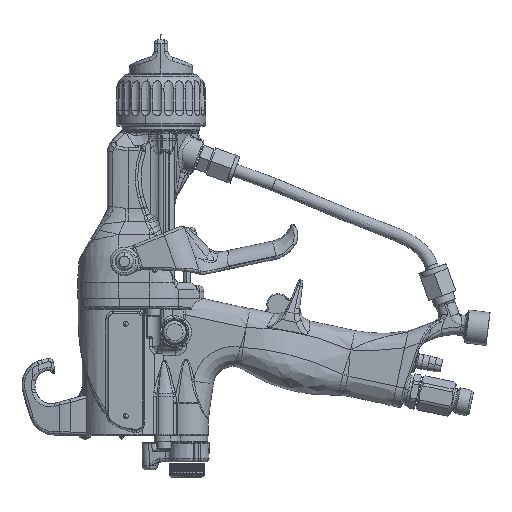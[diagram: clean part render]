
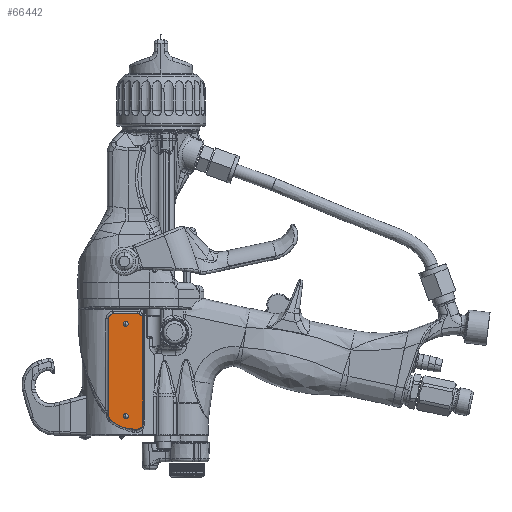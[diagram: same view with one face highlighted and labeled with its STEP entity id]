
A CAD part, left-side view. The second image highlights one B-rep face of the part: STEP entity #66442.
In plain terms, the highlighted planar face has unit normal (-1, 0, 0).
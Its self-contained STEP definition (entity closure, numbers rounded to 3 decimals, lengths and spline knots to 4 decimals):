
#58206=CARTESIAN_POINT('',(-0.755,0.4555,-4.42));
#58207=DIRECTION('',(-1.,0.,0.));
#58208=DIRECTION('',(0.,-1.,0.));
#58209=AXIS2_PLACEMENT_3D('',#58206,#58207,#58208);
#58211=DIRECTION('',(0.,0.,1.));
#58212=VECTOR('',#58211,2.062);
#58213=CARTESIAN_POINT('',(-0.755,0.357,-6.482));
#58214=LINE('',#58213,#58212);
#58215=CARTESIAN_POINT('',(-0.755,0.4555,-6.482));
#58216=DIRECTION('',(-1.,0.,0.));
#58217=DIRECTION('',(0.,0.,-1.));
#58218=AXIS2_PLACEMENT_3D('',#58215,#58216,#58217);
#58220=DIRECTION('',(0.,-1.,0.));
#58221=VECTOR('',#58220,0.087);
#58222=CARTESIAN_POINT('',(-0.755,0.5425,-6.5805));
#58223=LINE('',#58222,#58221);
#58224=CARTESIAN_POINT('',(-0.755,0.5425,-5.942));
#58225=DIRECTION('',(-1.,0.,0.));
#58226=DIRECTION('',(0.,0.713,-0.701));
#58227=AXIS2_PLACEMENT_3D('',#58224,#58225,#58226);
#58229=CARTESIAN_POINT('',(-0.755,0.9205,-6.3135));
#58230=DIRECTION('',(-1.,0.,0.));
#58231=DIRECTION('',(0.,1.,0.));
#58232=AXIS2_PLACEMENT_3D('',#58229,#58230,#58231);
#58234=DIRECTION('',(0.,0.,-1.));
#58235=VECTOR('',#58234,1.8935);
#58236=CARTESIAN_POINT('',(-0.755,1.029,-4.42));
#58237=LINE('',#58236,#58235);
#58238=CARTESIAN_POINT('',(-0.755,0.9305,-4.42));
#58239=DIRECTION('',(-1.,0.,0.));
#58240=DIRECTION('',(0.,0.,1.));
#58241=AXIS2_PLACEMENT_3D('',#58238,#58239,#58240);
#58243=DIRECTION('',(0.,-1.,0.));
#58244=VECTOR('',#58243,0.475);
#58245=CARTESIAN_POINT('',(-0.755,0.9305,-4.3215));
#58246=LINE('',#58245,#58244);
#62893=CARTESIAN_POINT('',(-0.755,0.357,-4.42));
#62894=CARTESIAN_POINT('',(-0.755,0.4555,-4.3215));
#62895=VERTEX_POINT('',#62893);
#62896=VERTEX_POINT('',#62894);
#62897=CARTESIAN_POINT('',(-0.755,0.9305,-4.3215));
#62898=VERTEX_POINT('',#62897);
#62899=CARTESIAN_POINT('',(-0.755,1.029,-4.42));
#62900=VERTEX_POINT('',#62899);
#62901=CARTESIAN_POINT('',(-0.755,1.029,-6.3135));
#62902=VERTEX_POINT('',#62901);
#62903=CARTESIAN_POINT('',(-0.755,0.9979,-6.3895));
#62904=VERTEX_POINT('',#62903);
#62905=CARTESIAN_POINT('',(-0.755,0.5425,-6.5805));
#62906=VERTEX_POINT('',#62905);
#62907=CARTESIAN_POINT('',(-0.755,0.4555,-6.5805));
#62908=VERTEX_POINT('',#62907);
#62909=CARTESIAN_POINT('',(-0.755,0.357,-6.482));
#62910=VERTEX_POINT('',#62909);
#66417=CARTESIAN_POINT('',(-0.755,0.1305,-3.75));
#66418=DIRECTION('',(1.,0.,0.));
#66419=DIRECTION('',(0.,0.,-1.));
#66420=AXIS2_PLACEMENT_3D('',#66417,#66418,#66419);
#66421=PLANE('',#66420);
#66423=ORIENTED_EDGE('',*,*,#66422,.F.);
#66425=ORIENTED_EDGE('',*,*,#66424,.F.);
#66427=ORIENTED_EDGE('',*,*,#66426,.F.);
#66429=ORIENTED_EDGE('',*,*,#66428,.F.);
#66431=ORIENTED_EDGE('',*,*,#66430,.F.);
#66433=ORIENTED_EDGE('',*,*,#66432,.F.);
#66435=ORIENTED_EDGE('',*,*,#66434,.F.);
#66437=ORIENTED_EDGE('',*,*,#66436,.F.);
#66439=ORIENTED_EDGE('',*,*,#66438,.T.);
#66440=EDGE_LOOP('',(#66423,#66425,#66427,#66429,#66431,#66433,#66435,#66437,
#66439));
#66441=FACE_OUTER_BOUND('',#66440,.F.);
#66442=ADVANCED_FACE('',(#66441),#66421,.F.);
#58210=CIRCLE('',#58209,0.0985);
#58219=CIRCLE('',#58218,0.0985);
#58228=CIRCLE('',#58227,0.6385);
#58233=CIRCLE('',#58232,0.1085);
#58242=CIRCLE('',#58241,0.0985);
#66422=EDGE_CURVE('',#62895,#62896,#58210,.T.);
#66424=EDGE_CURVE('',#62910,#62895,#58214,.T.);
#66426=EDGE_CURVE('',#62908,#62910,#58219,.T.);
#66428=EDGE_CURVE('',#62906,#62908,#58223,.T.);
#66430=EDGE_CURVE('',#62904,#62906,#58228,.T.);
#66432=EDGE_CURVE('',#62902,#62904,#58233,.T.);
#66434=EDGE_CURVE('',#62900,#62902,#58237,.T.);
#66436=EDGE_CURVE('',#62898,#62900,#58242,.T.);
#66438=EDGE_CURVE('',#62898,#62896,#58246,.T.);
